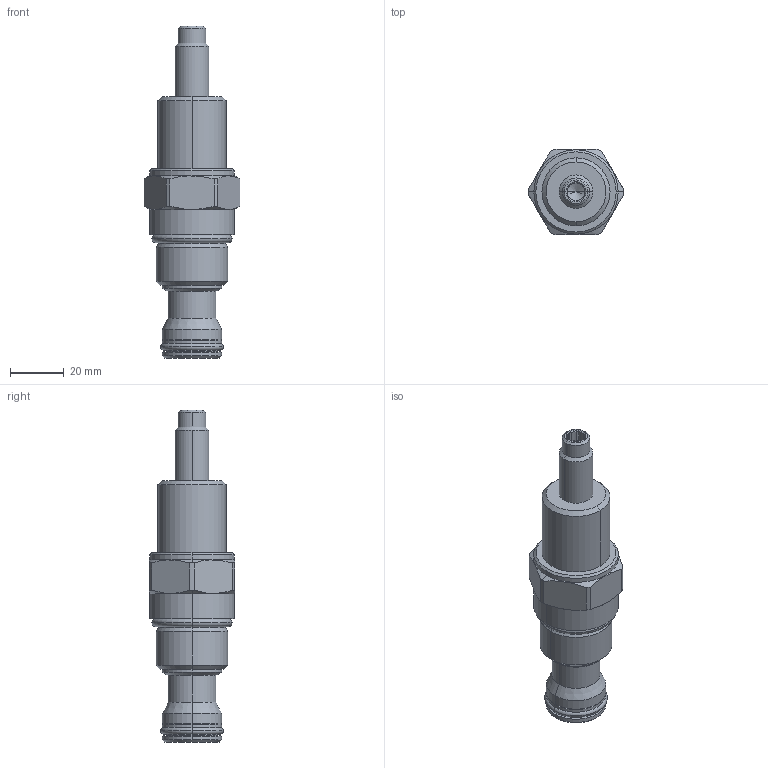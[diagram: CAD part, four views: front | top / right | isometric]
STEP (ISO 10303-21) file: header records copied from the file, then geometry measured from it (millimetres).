
FILE_DESCRIPTION((''),'2;1');
FILE_NAME('RV12-2XA','2014-04-10T',('mg1'),(''),'PRO/ENGINEER BY PARAMETRIC TECHNOLOGY CORPORATION, 2013230','PRO/ENGINEER BY PARAMETRIC TECHNOLOGY CORPORATION, 2013230','');
FILE_SCHEMA(('CONFIG_CONTROL_DESIGN'));
Length unit declared in the file: millimetre
Products named in the file (1): RV12-2XA
Bounding box: 35.81 x 31.75 x 124.01 mm (x, y, z)
Volume: 56090.7 mm3; surface area: 11996.2 mm2
Topology: 1 solids, 1 shells, 123 faces, 280 edges, 167 vertices
Faces by surface type: cylinder 48, cone 30, plane 29, torus 16
Entity records: 3602 total; most frequent: CARTESIAN_POINT 748, DIRECTION 642, ORIENTED_EDGE 556, EDGE_CURVE 278, AXIS2_PLACEMENT_3D 267, VERTEX_POINT 167, CIRCLE 144, EDGE_LOOP 133
